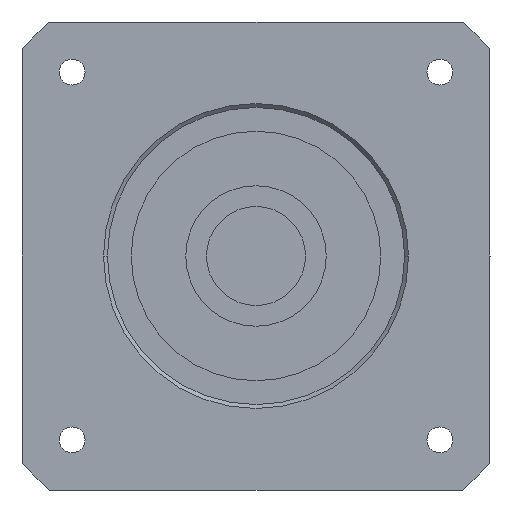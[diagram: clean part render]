
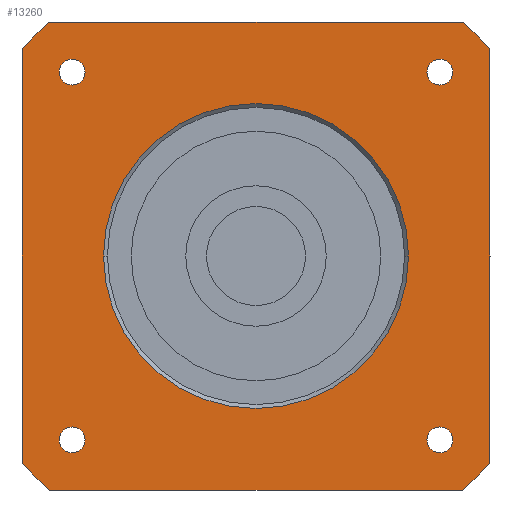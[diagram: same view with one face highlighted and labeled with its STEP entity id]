
A CAD part, left-side view. The second image highlights one B-rep face of the part: STEP entity #13260.
In plain terms, the highlighted planar face has unit normal (-1, 0, 0) as drawn and (0, 0, -1) by its records, which use the part's own axes.
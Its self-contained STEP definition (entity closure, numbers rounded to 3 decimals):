
#8660=CARTESIAN_POINT('',(-23.571,25.221,-34.));
#8670=VERTEX_POINT('',#8660);
#8830=CARTESIAN_POINT('',(-23.571,21.921,-34.));
#8840=VERTEX_POINT('',#8830);
#8870=CARTESIAN_POINT('',(-23.571,23.571,-34.));
#8880=DIRECTION('',(0.,0.,1.));
#8890=DIRECTION('',(0.,1.,0.));
#8900=AXIS2_PLACEMENT_3D('',#8870,#8880,#8890);
#8910=CIRCLE('',#8900,1.65);
#8920=EDGE_CURVE('',#8840,#8670,#8910,.T.);
#9080=CARTESIAN_POINT('',(23.571,25.221,-34.));
#9090=VERTEX_POINT('',#9080);
#9250=CARTESIAN_POINT('',(23.571,21.921,-34.));
#9260=VERTEX_POINT('',#9250);
#9290=CARTESIAN_POINT('',(23.571,23.571,-34.));
#9300=DIRECTION('',(0.,0.,1.));
#9310=DIRECTION('',(0.,1.,0.));
#9320=AXIS2_PLACEMENT_3D('',#9290,#9300,#9310);
#9330=CIRCLE('',#9320,1.65);
#9340=EDGE_CURVE('',#9260,#9090,#9330,.T.);
#11740=CARTESIAN_POINT('',(19.55,0.,-34.));
#11750=VERTEX_POINT('',#11740);
#11780=CARTESIAN_POINT('',(0.,0.,
-34.));
#11790=DIRECTION('',(0.,0.,1.));
#11800=DIRECTION('',(0.,1.,0.));
#11810=AXIS2_PLACEMENT_3D('',#11780,#11790,#11800);
#11820=CIRCLE('',#11810,19.55);
#11830=CARTESIAN_POINT('',(0.,19.55,-34.));
#11840=VERTEX_POINT('',#11830);
#11850=EDGE_CURVE('',#11750,#11840,#11820,.T.);
#11870=CARTESIAN_POINT('',(-19.55,0.,-34.));
#11880=VERTEX_POINT('',#11870);
#11890=EDGE_CURVE('',#11840,#11880,#11820,.T.);
#12050=CARTESIAN_POINT('',(30.,-30.,-34.));
#12060=DIRECTION('',(0.,0.,1.));
#12070=DIRECTION('',(0.,1.,0.));
#12080=AXIS2_PLACEMENT_3D('',#12050,#12060,#12070);
#12090=PLANE('',#12080);
#12100=CARTESIAN_POINT('',(-23.571,-23.571,-34.));
#12110=DIRECTION('',(0.,0.,1.));
#12120=DIRECTION('',(0.,1.,0.));
#12130=AXIS2_PLACEMENT_3D('',#12100,#12110,#12120);
#12140=CIRCLE('',#12130,1.65);
#12150=CARTESIAN_POINT('',(-23.571,-21.921,-34.));
#12160=VERTEX_POINT('',#12150);
#12170=CARTESIAN_POINT('',(-23.571,-25.221,-34.));
#12180=VERTEX_POINT('',#12170);
#12190=EDGE_CURVE('',#12160,#12180,#12140,.T.);
#12200=ORIENTED_EDGE('',*,*,#12190,.T.);
#12210=EDGE_CURVE('',#12180,#12160,#12140,.T.);
#12220=ORIENTED_EDGE('',*,*,#12210,.T.);
#12230=EDGE_LOOP('',(#12220,#12200));
#12240=FACE_BOUND('',#12230,.T.);
#12250=CARTESIAN_POINT('',(23.571,-23.571,-34.));
#12260=DIRECTION('',(0.,0.,1.));
#12270=DIRECTION('',(0.,1.,0.));
#12280=AXIS2_PLACEMENT_3D('',#12250,#12260,#12270);
#12290=CIRCLE('',#12280,1.65);
#12300=CARTESIAN_POINT('',(23.571,-21.921,-34.));
#12310=VERTEX_POINT('',#12300);
#12320=CARTESIAN_POINT('',(23.571,-25.221,-34.));
#12330=VERTEX_POINT('',#12320);
#12340=EDGE_CURVE('',#12310,#12330,#12290,.T.);
#12350=ORIENTED_EDGE('',*,*,#12340,.T.);
#12360=EDGE_CURVE('',#12330,#12310,#12290,.T.);
#12370=ORIENTED_EDGE('',*,*,#12360,.T.);
#12380=EDGE_LOOP('',(#12370,#12350));
#12390=FACE_BOUND('',#12380,.T.);
#12400=EDGE_CURVE('',#9090,#9260,#9330,.T.);
#12410=ORIENTED_EDGE('',*,*,#12400,.T.);
#12420=ORIENTED_EDGE('',*,*,#9340,.T.);
#12430=EDGE_LOOP('',(#12420,#12410));
#12440=FACE_BOUND('',#12430,.T.);
#12450=EDGE_CURVE('',#8670,#8840,#8910,.T.);
#12460=ORIENTED_EDGE('',*,*,#12450,.T.);
#12470=ORIENTED_EDGE('',*,*,#8920,.T.);
#12480=EDGE_LOOP('',(#12470,#12460));
#12490=FACE_BOUND('',#12480,.T.);
#12500=EDGE_CURVE('',#11880,#11750,#11820,.T.);
#12510=ORIENTED_EDGE('',*,*,#12500,.T.);
#12520=ORIENTED_EDGE('',*,*,#11890,.T.);
#12530=ORIENTED_EDGE('',*,*,#11850,.T.);
#12540=EDGE_LOOP('',(#12530,#12520,#12510));
#12550=FACE_BOUND('',#12540,.T.);
#12560=CARTESIAN_POINT('',(0.,0.,
-34.));
#12570=DIRECTION('',(0.,0.,1.));
#12580=DIRECTION('',(0.,1.,0.));
#12590=AXIS2_PLACEMENT_3D('',#12560,#12570,#12580);
#12600=CIRCLE('',#12590,40.);
#12610=CARTESIAN_POINT('',(-26.458,30.,-34.));
#12620=VERTEX_POINT('',#12610);
#12630=CARTESIAN_POINT('',(-30.,26.458,-34.));
#12640=VERTEX_POINT('',#12630);
#12650=EDGE_CURVE('',#12620,#12640,#12600,.T.);
#12660=ORIENTED_EDGE('',*,*,#12650,.F.);
#12670=CARTESIAN_POINT('',(-30.,30.,-34.));
#12680=DIRECTION('',(0.,-1.,0.));
#12690=VECTOR('',#12680,1000.);
#12700=LINE('',#12670,#12690);
#12710=CARTESIAN_POINT('',(-30.,-26.458,-34.));
#12720=VERTEX_POINT('',#12710);
#12730=EDGE_CURVE('',#12640,#12720,#12700,.T.);
#12740=ORIENTED_EDGE('',*,*,#12730,.F.);
#12750=CARTESIAN_POINT('',(0.,0.,
-34.));
#12760=DIRECTION('',(0.,0.,1.));
#12770=DIRECTION('',(0.,1.,0.));
#12780=AXIS2_PLACEMENT_3D('',#12750,#12760,#12770);
#12790=CIRCLE('',#12780,40.);
#12800=CARTESIAN_POINT('',(-26.458,-30.,-34.));
#12810=VERTEX_POINT('',#12800);
#12820=EDGE_CURVE('',#12720,#12810,#12790,.T.);
#12830=ORIENTED_EDGE('',*,*,#12820,.F.);
#12840=CARTESIAN_POINT('',(-30.,-30.,-34.));
#12850=DIRECTION('',(1.,0.,0.));
#12860=VECTOR('',#12850,1000.);
#12870=LINE('',#12840,#12860);
#12880=CARTESIAN_POINT('',(26.458,-30.,-34.));
#12890=VERTEX_POINT('',#12880);
#12900=EDGE_CURVE('',#12810,#12890,#12870,.T.);
#12910=ORIENTED_EDGE('',*,*,#12900,.F.);
#12920=CARTESIAN_POINT('',(0.,0.,
-34.));
#12930=DIRECTION('',(0.,0.,1.));
#12940=DIRECTION('',(0.,1.,0.));
#12950=AXIS2_PLACEMENT_3D('',#12920,#12930,#12940);
#12960=CIRCLE('',#12950,40.);
#12970=CARTESIAN_POINT('',(30.,-26.458,-34.));
#12980=VERTEX_POINT('',#12970);
#12990=EDGE_CURVE('',#12890,#12980,#12960,.T.);
#13000=ORIENTED_EDGE('',*,*,#12990,.F.);
#13010=CARTESIAN_POINT('',(30.,-30.,-34.));
#13020=DIRECTION('',(0.,1.,0.));
#13030=VECTOR('',#13020,1000.);
#13040=LINE('',#13010,#13030);
#13050=CARTESIAN_POINT('',(30.,26.458,-34.));
#13060=VERTEX_POINT('',#13050);
#13070=EDGE_CURVE('',#12980,#13060,#13040,.T.);
#13080=ORIENTED_EDGE('',*,*,#13070,.F.);
#13090=CARTESIAN_POINT('',(0.,0.,
-34.));
#13100=DIRECTION('',(0.,0.,1.));
#13110=DIRECTION('',(0.,1.,0.));
#13120=AXIS2_PLACEMENT_3D('',#13090,#13100,#13110);
#13130=CIRCLE('',#13120,40.);
#13140=CARTESIAN_POINT('',(26.458,30.,-34.));
#13150=VERTEX_POINT('',#13140);
#13160=EDGE_CURVE('',#13060,#13150,#13130,.T.);
#13170=ORIENTED_EDGE('',*,*,#13160,.F.);
#13180=CARTESIAN_POINT('',(30.,30.,-34.));
#13190=DIRECTION('',(-1.,0.,0.));
#13200=VECTOR('',#13190,1000.);
#13210=LINE('',#13180,#13200);
#13220=EDGE_CURVE('',#13150,#12620,#13210,.T.);
#13230=ORIENTED_EDGE('',*,*,#13220,.F.);
#13240=EDGE_LOOP('',(#13230,#13170,#13080,#13000,#12910,#12830,#12740,
#12660));
#13250=FACE_OUTER_BOUND('',#13240,.T.);
#13260=ADVANCED_FACE('',(#12240,#12390,#12440,#12490,#12550,#13250),
#12090,.F.);
